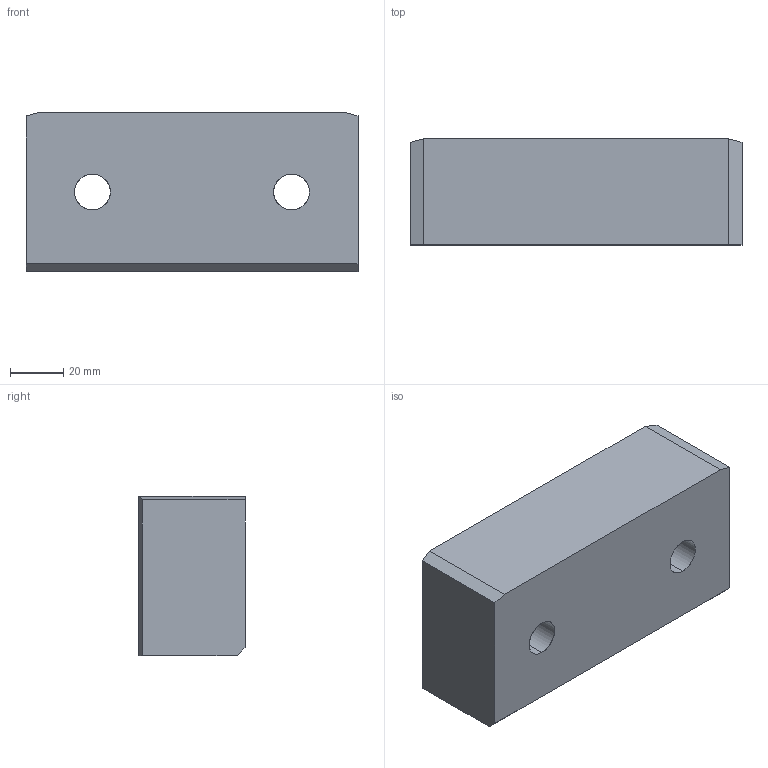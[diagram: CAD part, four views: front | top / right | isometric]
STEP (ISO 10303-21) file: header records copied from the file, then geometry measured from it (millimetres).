
FILE_DESCRIPTION(('CATIA V5 STEP Exchange'),'2;1');
FILE_NAME('C:\Users\Utente\Desktop\3D files A609\A609-040-125.stp','2020-04-13T19:47:16+00:00',('none'),('none'),'CATIA Version 5 Release 20 GA (IN-10)','CATIA V5 STEP AP203','none');
FILE_SCHEMA(('CONFIG_CONTROL_DESIGN'));
Length unit declared in the file: millimetre
Products named in the file (1): Noname
Bounding box: 125 x 40 x 60 mm (x, y, z)
Surface area: 32666.3 mm2 (no closed solid volume)
Topology: 0 solids, 17 shells, 21 faces, 90 edges, 82 vertices
Faces by surface type: extrusion 13, cylinder 8
Entity records: 1169 total; most frequent: CARTESIAN_POINT 441, ORIENTED_EDGE 98, DIRECTION 93, EDGE_CURVE 90, VERTEX_POINT 82, VECTOR 61, LINE 48, B_SPLINE_CURVE_WITH_KNOTS 39
